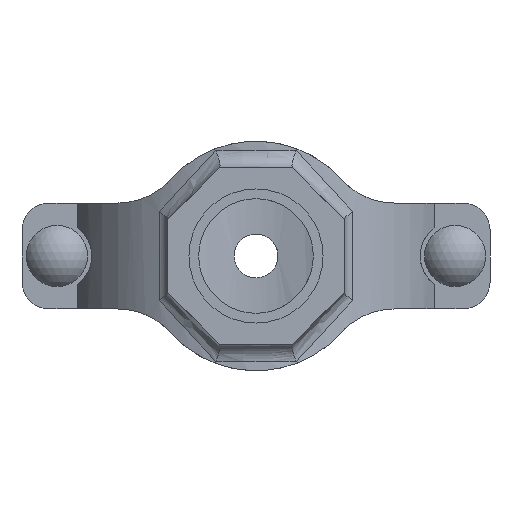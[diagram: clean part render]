
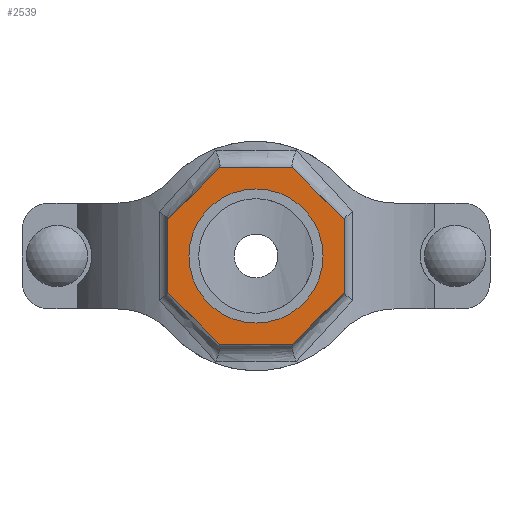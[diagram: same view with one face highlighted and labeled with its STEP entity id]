
A CAD part, front view. The second image highlights one B-rep face of the part: STEP entity #2539.
In plain terms, the highlighted planar face has unit normal (0, -1, 0) as drawn and (0, 1, 0) by its records, which use the part's own axes.
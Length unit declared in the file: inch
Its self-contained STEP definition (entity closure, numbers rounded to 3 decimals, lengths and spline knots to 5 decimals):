
#186=FACE_BOUND('',#459,.T.);
#307=FACE_OUTER_BOUND('',#458,.T.);
#458=EDGE_LOOP('',(#2138,#2139,#2140,#2141,#2142,#2143,#2144,#2145));
#459=EDGE_LOOP('',(#2146));
#594=LINE('',#4751,#780);
#597=LINE('',#4756,#783);
#599=LINE('',#4760,#785);
#601=LINE('',#4764,#787);
#641=LINE('',#5197,#827);
#643=LINE('',#5201,#829);
#645=LINE('',#5205,#831);
#647=LINE('',#5208,#833);
#780=VECTOR('',#3278,0.3937);
#783=VECTOR('',#3283,0.3937);
#785=VECTOR('',#3287,0.3937);
#787=VECTOR('',#3291,0.3937);
#827=VECTOR('',#3427,0.3937);
#829=VECTOR('',#3431,0.3937);
#831=VECTOR('',#3435,0.3937);
#833=VECTOR('',#3439,0.3937);
#919=CIRCLE('',#2802,0.95);
#1097=VERTEX_POINT('',#4748);
#1098=VERTEX_POINT('',#4750);
#1099=VERTEX_POINT('',#4754);
#1100=VERTEX_POINT('',#4758);
#1101=VERTEX_POINT('',#4762);
#1136=VERTEX_POINT('',#5042);
#1160=VERTEX_POINT('',#5196);
#1161=VERTEX_POINT('',#5200);
#1162=VERTEX_POINT('',#5204);
#1408=EDGE_CURVE('',#1098,#1097,#594,.T.);
#1411=EDGE_CURVE('',#1097,#1099,#597,.T.);
#1413=EDGE_CURVE('',#1099,#1100,#599,.T.);
#1415=EDGE_CURVE('',#1100,#1101,#601,.T.);
#1461=EDGE_CURVE('',#1136,#1136,#919,.T.);
#1495=EDGE_CURVE('',#1160,#1098,#641,.T.);
#1497=EDGE_CURVE('',#1161,#1160,#643,.T.);
#1499=EDGE_CURVE('',#1162,#1161,#645,.T.);
#1501=EDGE_CURVE('',#1101,#1162,#647,.T.);
#2138=ORIENTED_EDGE('',*,*,#1501,.T.);
#2139=ORIENTED_EDGE('',*,*,#1499,.T.);
#2140=ORIENTED_EDGE('',*,*,#1497,.T.);
#2141=ORIENTED_EDGE('',*,*,#1495,.T.);
#2142=ORIENTED_EDGE('',*,*,#1408,.T.);
#2143=ORIENTED_EDGE('',*,*,#1411,.T.);
#2144=ORIENTED_EDGE('',*,*,#1413,.T.);
#2145=ORIENTED_EDGE('',*,*,#1415,.T.);
#2146=ORIENTED_EDGE('',*,*,#1461,.T.);
#2280=PLANE('',#2825);
#2539=ADVANCED_FACE('',(#307,#186),#2280,.T.);
#2802=AXIS2_PLACEMENT_3D('',#5043,#3369,#3370);
#2825=AXIS2_PLACEMENT_3D('',#5209,#3440,#3441);
#3278=DIRECTION('',(0.,0.,1.));
#3283=DIRECTION('',(0.707,0.,0.707));
#3287=DIRECTION('',(1.,0.,0.));
#3291=DIRECTION('',(0.707,0.,-0.707));
#3369=DIRECTION('center_axis',(0.,-1.,0.));
#3370=DIRECTION('ref_axis',(-1.,0.,0.));
#3427=DIRECTION('',(-0.707,0.,0.707));
#3431=DIRECTION('',(-1.,0.,0.));
#3435=DIRECTION('',(-0.707,0.,-0.707));
#3439=DIRECTION('',(0.,0.,-1.));
#3440=DIRECTION('center_axis',(0.,1.,0.));
#3441=DIRECTION('ref_axis',(0.,0.,1.));
#4748=CARTESIAN_POINT('',(-1.25,4.,0.51777));
#4750=CARTESIAN_POINT('',(-1.25,4.,-0.51777));
#4751=CARTESIAN_POINT('',(-1.25,4.,0.51777));
#4754=CARTESIAN_POINT('',(-0.51777,4.,1.25));
#4756=CARTESIAN_POINT('',(-0.51777,4.,1.25));
#4758=CARTESIAN_POINT('',(0.51777,4.,1.25));
#4760=CARTESIAN_POINT('',(0.51777,4.,1.25));
#4762=CARTESIAN_POINT('',(1.25,4.,0.51777));
#4764=CARTESIAN_POINT('',(1.25,4.,0.51777));
#5042=CARTESIAN_POINT('',(0.95,4.,0.));
#5043=CARTESIAN_POINT('Origin',(0.,4.,0.));
#5196=CARTESIAN_POINT('',(-0.51777,4.,-1.25));
#5197=CARTESIAN_POINT('',(-1.25,4.,-0.51777));
#5200=CARTESIAN_POINT('',(0.51777,4.,-1.25));
#5201=CARTESIAN_POINT('',(-0.51777,4.,-1.25));
#5204=CARTESIAN_POINT('',(1.25,4.,-0.51777));
#5205=CARTESIAN_POINT('',(0.51777,4.,-1.25));
#5208=CARTESIAN_POINT('',(1.25,4.,-0.51777));
#5209=CARTESIAN_POINT('Origin',(0.,4.,0.));
